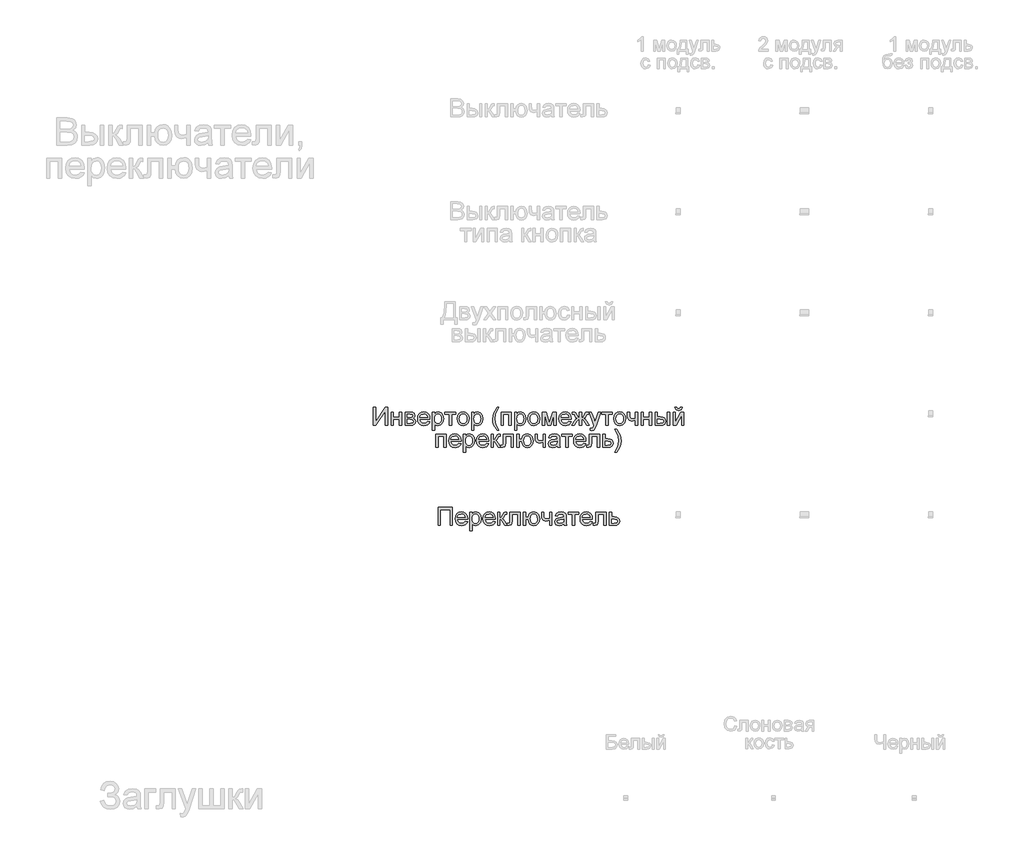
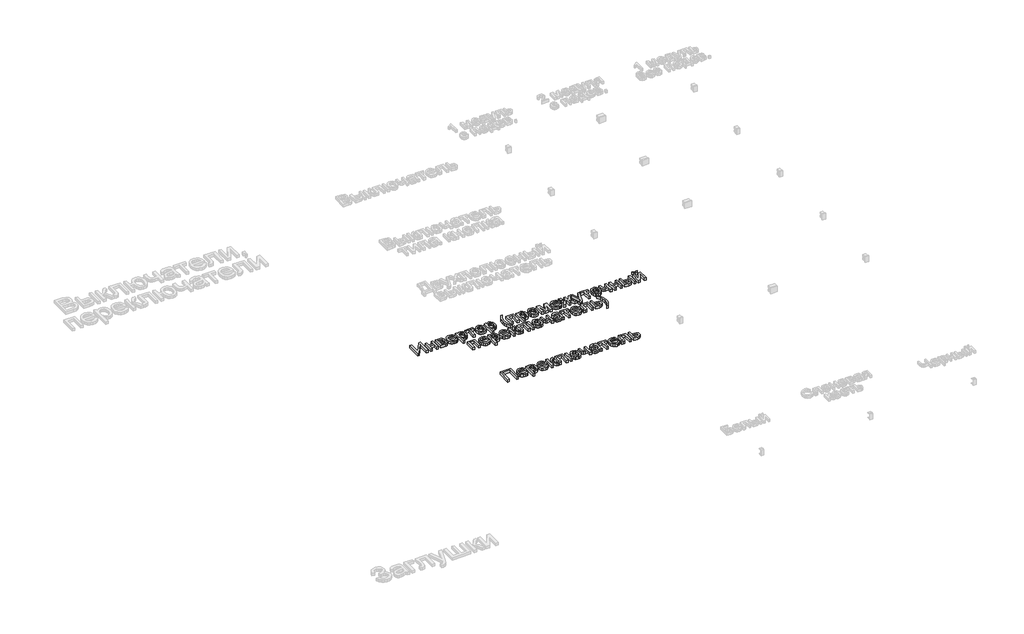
# One storey, part 3 of 47: 2 proxies.
"""IFC4 building model written with IfcOpenShell, lengths in millimetres."""

from ifc_helpers import new_model, si_unit, origin, origin_with_axes, place, context, project, spatial, polyline, outline, extrude, element, save

model = new_model("IFC4")

# Units and contexts
model_context = context("Model", 3, world=origin())
ifc_project = project(units=[si_unit("LENGTHUNIT", "METRE", prefix="MILLI")], contexts=[model_context])

# Site, building, storey
site = spatial("IfcSite", under=ifc_project)
building = spatial("IfcBuilding", under=site)
storey = spatial("IfcBuildingStorey", under=building, Name="Этаж 01", Elevation=0.0)

# Proxies
placement = place(None, origin())
element("IfcBuildingElementProxy", 1, Name="100 мм Arial", ObjectType="100 мм Arial", at=placement, inside=storey, context=model_context, shape_type="SweptSolid", body=[
    extrude(outline(polyline([(-1385.1267919, -30275.0185576), (-1372.5697531, -30275.0185576), (-1372.5697531, -30354.5791704), (-1319.9871533, -30275.0185576), (-1306.6452996, -30275.0185576), (-1306.6452996, -30375.4748677), (-1319.2023384, -30375.4748677), (-1319.2023384, -30296.1349841), (-1371.6623109, -30375.4748677), (-1385.1267919, -30375.4748677), (-1385.1267919, -30275.0185576)])), origin_with_axes(), (0.0, 0.0, 1.0), 20.0),
    extrude(outline(polyline([(-1286.2401116, -30301.702265), (-1273.6830728, -30301.702265), (-1273.6830728, -30329.9556022), (-1240.7208461, -30329.9556022), (-1240.7208461, -30301.702265), (-1228.1638073, -30301.702265), (-1228.1638073, -30375.4748677), (-1240.7208461, -30375.4748677), (-1240.7208461, -30342.512641), (-1273.6830728, -30342.512641), (-1273.6830728, -30375.4748677), (-1286.2401116, -30375.4748677), (-1286.2401116, -30301.702265)])), origin_with_axes(), (0.0, 0.0, 1.0), 20.0),
    extrude(outline(polyline([(-1209.3282491, -30301.702265), (-1181.6635231, -30301.702265), (-1166.4945222, -30303.3822594), (-1157.9596599, -30309.5381515), (-1154.3912045, -30320.268043), (-1156.5494456, -30328.9868463), (-1163.0486941, -30335.204052), (-1154.6119337, -30342.0098689), (-1151.2519448, -30353.8434064), (-1153.379529, -30363.4144696), (-1158.4379065, -30370.1528415), (-1166.4454712, -30374.1443612), (-1177.4206174, -30375.4748677), (-1209.3282491, -30375.4748677), (-1209.3282491, -30301.702265)]), holes=[polyline([(-1196.7712104, -30362.917829), (-1181.3692175, -30362.917829), (-1167.7085327, -30360.6492233), (-1163.8089836, -30352.8133368), (-1165.9549619, -30346.7678094), (-1171.5467682, -30343.2484049), (-1182.5954908, -30342.512641), (-1196.7712104, -30342.512641), (-1196.7712104, -30362.917829)]), polyline([(-1196.7712104, -30329.9556022), (-1184.3613244, -30329.9556022), (-1174.1219422, -30329.3179401), (-1169.1432725, -30326.7672916), (-1166.9482433, -30322.1565039), (-1170.7987415, -30316.0006118), (-1183.9689169, -30314.2593037), (-1196.7712104, -30314.2593037), (-1196.7712104, -30329.9556022)])]), origin_with_axes(), (0.0, 0.0, 1.0), 20.0),
    extrude(outline(polyline([(-1083.9050142, -30353.5000499), (-1071.5932301, -30355.0696797), (-1076.0292739, -30364.3464374), (-1083.1079366, -30371.281013), (-1092.6698028, -30375.6036264), (-1104.5554569, -30377.0444976), (-1119.2891308, -30374.5582284), (-1130.6260276, -30367.099421), (-1137.8549088, -30355.1524532), (-1140.2645359, -30339.201703), (-1137.8303834, -30322.7144582), (-1130.5279258, -30310.38428), (-1119.3443131, -30302.6955463), (-1105.2666954, -30300.1326351), (-1091.6274705, -30302.689415), (-1080.7289663, -30310.3597546), (-1073.5828586, -30322.6654073), (-1071.2008227, -30339.1281266), (-1071.2743991, -30342.512641), (-1127.7074971, -30342.512641), (-1125.5339277, -30351.9120259), (-1120.4847473, -30358.8220761), (-1113.1976181, -30363.0711131), (-1104.3102022, -30364.4874588), (-1091.9984181, -30361.8632339), (-1083.9050142, -30353.5000499)]), holes=[polyline([(-1127.7074971, -30329.9556022), (-1083.7578614, -30329.9556022), (-1088.785582, -30318.5757858), (-1096.1064337, -30314.1612019), (-1105.3157464, -30312.6896739), (-1120.7790529, -30317.3863007), (-1125.6442923, -30322.8769395), (-1127.7074971, -30329.9556022)])]), origin_with_axes(), (0.0, 0.0, 1.0), 20.0),
    extrude(outline(polyline([(-1058.6437839, -30403.7282049), (-1058.6437839, -30301.702265), (-1046.0867451, -30301.702265), (-1046.0867451, -30314.0140491), (-1037.4047301, -30303.6029886), (-1025.6815571, -30300.1326351), (-1009.7645295, -30304.9886774), (-999.3657317, -30318.6738877), (-995.8585901, -30338.0244806), (-999.8194529, -30358.3683549), (-1011.3218966, -30372.2252434), (-1027.2021361, -30377.0444976), (-1038.1282313, -30373.8193987), (-1046.0867451, -30365.6646812), (-1046.0867451, -30403.7282049), (-1058.6437839, -30403.7282049)]), holes=[polyline([(-1046.0867451, -30339.1771775), (-1044.7286474, -30350.4343666), (-1040.6543543, -30358.3070413), (-1034.6425494, -30362.9423544), (-1027.4719162, -30364.4874588), (-1020.184787, -30362.8871721), (-1014.0196979, -30358.0863121), (-1009.8166461, -30349.9254632), (-1008.4156288, -30338.2452098), (-1009.7829236, -30327.0493344), (-1013.8848078, -30319.0662951), (-1019.8874157, -30314.2838292), (-1026.9568814, -30312.6896739), (-1034.0539382, -30314.3849967), (-1040.2864723, -30319.4709653), (-1044.6366769, -30327.7881641), (-1046.0867451, -30339.1771775)])]), origin_with_axes(), (0.0, 0.0, 1.0), 20.0),
    extrude(outline(polyline([(-988.0104408, -30301.702265), (-928.3645067, -30301.702265), (-928.3645067, -30314.2593037), (-951.9089544, -30314.2593037), (-951.9089544, -30375.4748677), (-964.4659931, -30375.4748677), (-964.4659931, -30314.2593037), (-988.0104408, -30314.2593037), (-988.0104408, -30301.702265)])), origin_with_axes(), (0.0, 0.0, 1.0), 20.0),
    extrude(outline(polyline([(-920.5163575, -30338.5885663), (-917.8001621, -30320.8014719), (-909.6515759, -30308.2996154), (-899.5838719, -30302.1743802), (-887.5296052, -30300.1326351), (-874.33797, -30302.6189043), (-863.8012165, -30310.0777117), (-856.8942321, -30321.9204463), (-854.5919039, -30337.5584968), (-858.6631313, -30359.9011966), (-870.5211943, -30372.5440745), (-887.5296052, -30377.0444976), (-900.880656, -30374.5674255), (-911.4051467, -30367.1362092), (-918.2385548, -30355.0451543), (-920.5163575, -30338.5885663)]), holes=[polyline([(-907.9593187, -30338.5640409), (-906.5061848, -30349.9285288), (-902.1467832, -30358.0249984), (-895.5862209, -30362.8718437), (-887.5296052, -30364.4874588), (-879.5097777, -30362.8626467), (-872.9614782, -30357.9882102), (-868.6020766, -30349.7844417), (-867.1489427, -30338.1716334), (-868.6112736, -30327.1382392), (-872.9982664, -30319.1521343), (-879.555763, -30314.305289), (-887.5296052, -30312.6896739), (-895.5862209, -30314.2991576), (-902.1467832, -30319.1276088), (-906.5061848, -30327.2056843), (-907.9593187, -30338.5640409)])]), origin_with_axes(), (0.0, 0.0, 1.0), 20.0),
    extrude(outline(polyline([(-840.4652353, -30403.7282049), (-840.4652353, -30301.702265), (-827.9081965, -30301.702265), (-827.9081965, -30314.0140491), (-819.2261814, -30303.6029886), (-807.5030085, -30300.1326351), (-791.5859809, -30304.9886774), (-781.1871831, -30318.6738877), (-777.6800415, -30338.0244806), (-781.6409043, -30358.3683549), (-793.143348, -30372.2252434), (-809.0235874, -30377.0444976), (-819.9496827, -30373.8193987), (-827.9081965, -30365.6646812), (-827.9081965, -30403.7282049), (-840.4652353, -30403.7282049)]), holes=[polyline([(-827.9081965, -30339.1771775), (-826.5500988, -30350.4343666), (-822.4758057, -30358.3070413), (-816.4640008, -30362.9423544), (-809.2933676, -30364.4874588), (-802.0062384, -30362.8871721), (-795.8411493, -30358.0863121), (-791.6380975, -30349.9254632), (-790.2370802, -30338.2452098), (-791.604375, -30327.0493344), (-795.7062592, -30319.0662951), (-801.7088671, -30314.2838292), (-808.7783328, -30312.6896739), (-815.8753896, -30314.3849967), (-822.1079237, -30319.4709653), (-826.4581283, -30327.7881641), (-827.9081965, -30339.1771775)])]), origin_with_axes(), (0.0, 0.0, 1.0), 20.0),
    extrude(outline(polyline([(-699.1985492, -30403.7282049), (-717.0285632, -30374.2731199), (-722.4916108, -30357.0930307), (-724.3126267, -30339.2998049), (-718.8679732, -30308.7655993), (-699.1985492, -30275.0185576), (-689.7807701, -30275.0185576), (-701.5284685, -30294.9087108), (-708.5918028, -30314.1857273), (-711.7555879, -30339.3733813), (-706.2618835, -30371.5630558), (-689.7807701, -30403.7282049), (-699.1985492, -30403.7282049)])), origin_with_axes(), (0.0, 0.0, 1.0), 20.0),
    extrude(outline(polyline([(-677.2237313, -30301.702265), (-620.7170568, -30301.702265), (-620.7170568, -30375.4748677), (-633.2740956, -30375.4748677), (-633.2740956, -30314.2593037), (-664.6666925, -30314.2593037), (-664.6666925, -30375.4748677), (-677.2237313, -30375.4748677), (-677.2237313, -30301.702265)])), origin_with_axes(), (0.0, 0.0, 1.0), 20.0),
    extrude(outline(polyline([(-601.8814987, -30403.7282049), (-601.8814987, -30301.702265), (-589.3244599, -30301.702265), (-589.3244599, -30314.0140491), (-580.6424448, -30303.6029886), (-568.9192719, -30300.1326351), (-553.0022443, -30304.9886774), (-542.6034465, -30318.6738877), (-539.0963049, -30338.0244806), (-543.0571677, -30358.3683549), (-554.5596114, -30372.2252434), (-570.4398508, -30377.0444976), (-581.3659461, -30373.8193987), (-589.3244599, -30365.6646812), (-589.3244599, -30403.7282049), (-601.8814987, -30403.7282049)]), holes=[polyline([(-589.3244599, -30339.1771775), (-587.9663622, -30350.4343666), (-583.8920691, -30358.3070413), (-577.8802642, -30362.9423544), (-570.709631, -30364.4874588), (-563.4225018, -30362.8871721), (-557.2574127, -30358.0863121), (-553.0543609, -30349.9254632), (-551.6533436, -30338.2452098), (-553.0206384, -30327.0493344), (-557.1225226, -30319.0662951), (-563.1251305, -30314.2838292), (-570.1945962, -30312.6896739), (-577.291653, -30314.3849967), (-583.5241871, -30319.4709653), (-587.8743917, -30327.7881641), (-589.3244599, -30339.1771775)])]), origin_with_axes(), (0.0, 0.0, 1.0), 20.0),
    extrude(outline(polyline([(-528.1088959, -30338.5885663), (-525.3927005, -30320.8014719), (-517.2441143, -30308.2996154), (-507.1764104, -30302.1743802), (-495.1221437, -30300.1326351), (-481.9305085, -30302.6189043), (-471.393755, -30310.0777117), (-464.4867705, -30321.9204463), (-462.1844424, -30337.5584968), (-466.2556698, -30359.9011966), (-478.1137328, -30372.5440745), (-495.1221437, -30377.0444976), (-508.4731944, -30374.5674255), (-518.9976852, -30367.1362092), (-525.8310932, -30355.0451543), (-528.1088959, -30338.5885663)]), holes=[polyline([(-515.5518572, -30338.5640409), (-514.0987233, -30349.9285288), (-509.7393216, -30358.0249984), (-503.1787594, -30362.8718437), (-495.1221437, -30364.4874588), (-487.1023162, -30362.8626467), (-480.5540167, -30357.9882102), (-476.194615, -30349.7844417), (-474.7414812, -30338.1716334), (-476.2038121, -30327.1382392), (-480.5908049, -30319.1521343), (-487.1483014, -30314.305289), (-495.1221437, -30312.6896739), (-503.1787594, -30314.2991576), (-509.7393216, -30319.1276088), (-514.0987233, -30327.2056843), (-515.5518572, -30338.5640409)])]), origin_with_axes(), (0.0, 0.0, 1.0), 20.0),
    extrude(outline(polyline([(-448.0577738, -30301.702265), (-426.4508379, -30301.702265), (-409.7980463, -30360.7595879), (-391.8454049, -30301.702265), (-371.1459113, -30301.702265), (-371.1459113, -30375.4748677), (-383.7029501, -30375.4748677), (-383.7029501, -30316.0741882), (-401.7536933, -30375.4748677), (-418.2348067, -30375.4748677), (-435.500735, -30313.2292341), (-435.500735, -30375.4748677), (-448.0577738, -30375.4748677), (-448.0577738, -30301.702265)])), origin_with_axes(), (0.0, 0.0, 1.0), 20.0),
    extrude(outline(polyline([(-300.659721, -30353.5000499), (-288.3479369, -30355.0696797), (-292.7839807, -30364.3464374), (-299.8626434, -30371.281013), (-309.4245096, -30375.6036264), (-321.3101637, -30377.0444976), (-336.0438376, -30374.5582284), (-347.3807344, -30367.099421), (-354.6096156, -30355.1524532), (-357.0192427, -30339.201703), (-354.5850902, -30322.7144582), (-347.2826326, -30310.38428), (-336.0990199, -30302.6955463), (-322.0214022, -30300.1326351), (-308.3821773, -30302.689415), (-297.4836732, -30310.3597546), (-290.3375654, -30322.6654073), (-287.9555295, -30339.1281266), (-288.0291059, -30342.512641), (-344.4622039, -30342.512641), (-342.2886345, -30351.9120259), (-337.2394541, -30358.8220761), (-329.9523249, -30363.0711131), (-321.064909, -30364.4874588), (-308.7531249, -30361.8632339), (-300.659721, -30353.5000499)]), holes=[polyline([(-344.4622039, -30329.9556022), (-300.5125682, -30329.9556022), (-305.5402888, -30318.5757858), (-312.8611406, -30314.1612019), (-322.0704532, -30312.6896739), (-337.5337597, -30317.3863007), (-342.3989991, -30322.8769395), (-344.4622039, -30329.9556022)])]), origin_with_axes(), (0.0, 0.0, 1.0), 20.0),
    extrude(outline(polyline([(-181.2206999, -30403.7282049), (-182.7903298, -30391.63715), (-176.4137085, -30392.740796), (-170.4540202, -30391.3551072), (-166.7997257, -30387.4923462), (-163.3661604, -30378.2462454), (-162.3851418, -30375.2050876), (-189.0688492, -30301.702265), (-175.8250973, -30301.702265), (-161.6739033, -30342.6597937), (-156.7442845, -30359.0428053), (-151.8146658, -30344.5727801), (-137.2710643, -30301.702265), (-124.1254143, -30301.702265), (-149.8035776, -30377.2407013), (-156.4745044, -30393.6237128), (-163.7585679, -30402.4774062), (-173.544229, -30405.2978348), (-181.2206999, -30403.7282049)])), origin_with_axes(), (0.0, 0.0, 1.0), 20.0),
    extrude(outline(polyline([(-229.8792252, -30301.702265), (-229.8792252, -30333.0948619), (-222.5583735, -30330.5074252), (-215.6299292, -30317.0797324), (-207.3648471, -30304.2038625), (-195.6171487, -30301.702265), (-190.638479, -30301.702265), (-190.638479, -30314.3328801), (-194.0965698, -30314.2593037), (-200.5712929, -30315.5591534), (-205.0594532, -30323.7016083), (-210.2711148, -30332.628878), (-217.7145939, -30337.1660893), (-209.504694, -30342.0527885), (-201.5032606, -30352.347353), (-187.4992193, -30375.4748677), (-201.8956681, -30375.4748677), (-215.6789802, -30352.666184), (-222.7055263, -30343.1870913), (-229.8792252, -30340.9430111), (-229.8792252, -30375.4748677), (-242.4362639, -30375.4748677), (-242.4362639, -30340.9430111), (-249.5854374, -30343.1380403), (-256.6610344, -30352.6171331), (-270.4443465, -30375.4748677), (-284.8162698, -30375.4748677), (-270.8612794, -30352.347353), (-262.7985324, -30342.0527885), (-254.5518443, -30337.1660893), (-262.4490445, -30332.1628942), (-269.2180732, -30319.2870243), (-272.5290111, -30315.0441186), (-277.9491392, -30314.1857273), (-281.6770101, -30314.2593037), (-281.6770101, -30301.702265), (-279.7885492, -30301.702265), (-268.7766148, -30302.4870799), (-263.0621811, -30305.8225433), (-256.6610344, -30317.0797324), (-249.8061666, -30330.421586), (-242.4362639, -30333.0948619), (-242.4362639, -30301.702265), (-229.8792252, -30301.702265)])), origin_with_axes(), (0.0, 0.0, 1.0), 20.0),
    extrude(outline(polyline([(-120.0051359, -30301.702265), (-60.3592018, -30301.702265), (-60.3592018, -30314.2593037), (-83.9036495, -30314.2593037), (-83.9036495, -30375.4748677), (-96.4606883, -30375.4748677), (-96.4606883, -30314.2593037), (-120.0051359, -30314.2593037), (-120.0051359, -30301.702265)])), origin_with_axes(), (0.0, 0.0, 1.0), 20.0),
    extrude(outline(polyline([(-52.5110526, -30338.5885663), (-49.7948572, -30320.8014719), (-41.646271, -30308.2996154), (-31.578567, -30302.1743802), (-19.5243003, -30300.1326351), (-6.3326651, -30302.6189043), (4.2040884, -30310.0777117), (11.1110728, -30321.9204463), (13.413401, -30337.5584968), (9.3421736, -30359.9011966), (-2.5158894, -30372.5440745), (-19.5243003, -30377.0444976), (-32.8753511, -30374.5674255), (-43.3998418, -30367.1362092), (-50.2332499, -30355.0451543), (-52.5110526, -30338.5885663)]), holes=[polyline([(-39.9540138, -30338.5640409), (-38.5008799, -30349.9285288), (-34.1414783, -30358.0249984), (-27.580916, -30362.8718437), (-19.5243003, -30364.4874588), (-11.5044728, -30362.8626467), (-4.9561733, -30357.9882102), (-0.5967717, -30349.7844417), (0.8563622, -30338.1716334), (-0.6059687, -30327.1382392), (-4.9929615, -30319.1521343), (-11.5504581, -30314.305289), (-19.5243003, -30312.6896739), (-27.580916, -30314.2991576), (-34.1414783, -30319.1276088), (-38.5008799, -30327.2056843), (-39.9540138, -30338.5640409)])]), origin_with_axes(), (0.0, 0.0, 1.0), 20.0),
    extrude(outline(polyline([(22.83118, -30301.702265), (35.3882188, -30301.702265), (35.3882188, -30315.853459), (36.4060257, -30329.1217363), (41.2988562, -30336.307698), (51.0109409, -30339.3733813), (68.3504456, -30335.571934), (68.3504456, -30301.702265), (80.9074844, -30301.702265), (80.9074844, -30375.4748677), (68.3504456, -30375.4748677), (68.3504456, -30347.613938), (47.650952, -30351.93042), (33.4139188, -30347.429997), (25.038472, -30336.4057998), (22.83118, -30322.058402), (22.83118, -30301.702265)])), origin_with_axes(), (0.0, 0.0, 1.0), 20.0),
    extrude(outline(polyline([(99.7430425, -30301.702265), (112.3000813, -30301.702265), (112.3000813, -30329.9556022), (145.262308, -30329.9556022), (145.262308, -30301.702265), (157.8193468, -30301.702265), (157.8193468, -30375.4748677), (145.262308, -30375.4748677), (145.262308, -30342.512641), (112.3000813, -30342.512641), (112.3000813, -30375.4748677), (99.7430425, -30375.4748677), (99.7430425, -30301.702265)])), origin_with_axes(), (0.0, 0.0, 1.0), 20.0),
    extrude(outline(polyline([(245.7186182, -30301.702265), (258.275657, -30301.702265), (258.275657, -30375.4748677), (245.7186182, -30375.4748677), (245.7186182, -30301.702265)])), origin_with_axes(), (0.0, 0.0, 1.0), 20.0),
    extrude(outline(polyline([(176.654905, -30301.702265), (189.2119437, -30301.702265), (189.2119437, -30328.3859723), (204.7365639, -30328.3859723), (218.1550597, -30329.9586679), (228.0970706, -30334.6767545), (234.249897, -30342.1600874), (236.3008391, -30352.0285219), (234.5809908, -30361.0140396), (229.4214458, -30368.5954744), (220.484979, -30373.7550194), (207.4343652, -30375.4748677), (176.654905, -30375.4748677), (176.654905, -30301.702265)]), holes=[polyline([(189.2119437, -30362.917829), (202.112339, -30362.917829), (218.7651307, -30360.2813413), (223.7438003, -30352.0530474), (220.0527177, -30344.3275255), (203.7555453, -30340.9430111), (189.2119437, -30340.9430111), (189.2119437, -30362.917829)])]), origin_with_axes(), (0.0, 0.0, 1.0), 20.0),
    extrude(outline(polyline([(277.1112151, -30301.702265), (289.6682539, -30301.702265), (289.6682539, -30357.9636847), (320.5212905, -30301.702265), (336.7571493, -30301.702265), (336.7571493, -30375.4748677), (324.2001105, -30375.4748677), (324.2001105, -30319.5568045), (293.5432776, -30375.4748677), (277.1112151, -30375.4748677), (277.1112151, -30301.702265)])), origin_with_axes(), (0.0, 0.0, 1.0), 20.0),
    extrude(outline(polyline([(317.9215911, -30275.0185576), (327.3393702, -30275.0185576), (321.2447918, -30288.9858107), (307.7189971, -30293.8541157), (293.0772937, -30289.0225989), (286.5289942, -30275.0185576), (295.9467733, -30275.0185576), (299.4784404, -30282.0941546), (306.5908257, -30284.4363366), (314.389924, -30282.167731), (317.9215911, -30275.0185576)])), origin_with_axes(), (0.0, 0.0, 1.0), 20.0),
    extrude(outline(polyline([(-1038.2385959, -30423.6770828), (-981.7319214, -30423.6770828), (-981.7319214, -30497.4496856), (-994.2889602, -30497.4496856), (-994.2889602, -30436.2341216), (-1025.6815571, -30436.2341216), (-1025.6815571, -30497.4496856), (-1038.2385959, -30497.4496856), (-1038.2385959, -30423.6770828)])), origin_with_axes(), (0.0, 0.0, 1.0), 20.0),
    extrude(outline(polyline([(-911.2457312, -30475.4748677), (-898.9339471, -30477.0444976), (-903.3699908, -30486.3212552), (-910.4486535, -30493.2558308), (-920.0105197, -30497.5784443), (-931.8961738, -30499.0193154), (-946.6298477, -30496.5330463), (-957.9667446, -30489.0742388), (-965.1956258, -30477.127271), (-967.6052528, -30461.1765208), (-965.1711003, -30444.6892761), (-957.8686427, -30432.3590979), (-946.68503, -30424.6703642), (-932.6074124, -30422.107453), (-918.9681874, -30424.6642328), (-908.0696833, -30432.3345724), (-900.9235755, -30444.6402252), (-898.5415396, -30461.1029444), (-898.615116, -30464.4874588), (-955.0482141, -30464.4874588), (-952.8746446, -30473.8868438), (-947.8254642, -30480.7968939), (-940.538335, -30485.045931), (-931.6509192, -30486.4622766), (-919.3391351, -30483.8380517), (-911.2457312, -30475.4748677)]), holes=[polyline([(-955.0482141, -30451.93042), (-911.0985784, -30451.93042), (-916.126299, -30440.5506036), (-923.4471507, -30436.1360197), (-932.6564633, -30434.6644917), (-948.1197698, -30439.3611185), (-952.9850092, -30444.8517573), (-955.0482141, -30451.93042)])]), origin_with_axes(), (0.0, 0.0, 1.0), 20.0),
    extrude(outline(polyline([(-885.9845008, -30525.7030228), (-885.9845008, -30423.6770828), (-873.4274621, -30423.6770828), (-873.4274621, -30435.9888669), (-864.745447, -30425.5778064), (-853.0222741, -30422.107453), (-837.1052464, -30426.9634953), (-826.7064487, -30440.6487055), (-823.199307, -30459.9992985), (-827.1601698, -30480.3431728), (-838.6626135, -30494.2000613), (-854.542853, -30499.0193154), (-865.4689482, -30495.7942166), (-873.4274621, -30487.639499), (-873.4274621, -30525.7030228), (-885.9845008, -30525.7030228)]), holes=[polyline([(-873.4274621, -30461.1519954), (-872.0693644, -30472.4091844), (-867.9950713, -30480.2818591), (-861.9832663, -30484.9171723), (-854.8126331, -30486.4622766), (-847.5255039, -30484.86199), (-841.3604148, -30480.0611299), (-837.157363, -30471.900281), (-835.7563458, -30460.2200277), (-837.1236405, -30449.0241523), (-841.2255248, -30441.041113), (-847.2281326, -30436.258647), (-854.2975983, -30434.6644917), (-861.3946551, -30436.3598146), (-867.6271893, -30441.4457832), (-871.9773939, -30449.7629819), (-873.4274621, -30461.1519954)])]), origin_with_axes(), (0.0, 0.0, 1.0), 20.0),
    extrude(outline(polyline([(-757.4220063, -30475.4748677), (-745.1102221, -30477.0444976), (-749.5462659, -30486.3212552), (-756.6249286, -30493.2558308), (-766.1867948, -30497.5784443), (-778.0724489, -30499.0193154), (-792.8061228, -30496.5330463), (-804.1430196, -30489.0742388), (-811.3719008, -30477.127271), (-813.7815279, -30461.1765208), (-811.3473754, -30444.6892761), (-804.0449178, -30432.3590979), (-792.8613051, -30424.6703642), (-778.7836874, -30422.107453), (-765.1444625, -30424.6642328), (-754.2459584, -30432.3345724), (-747.0998506, -30444.6402252), (-744.7178147, -30461.1029444), (-744.7913911, -30464.4874588), (-801.2244891, -30464.4874588), (-799.0509197, -30473.8868438), (-794.0017393, -30480.7968939), (-786.7146101, -30485.045931), (-777.8271943, -30486.4622766), (-765.5154101, -30483.8380517), (-757.4220063, -30475.4748677)]), holes=[polyline([(-801.2244891, -30451.93042), (-757.2748535, -30451.93042), (-762.3025741, -30440.5506036), (-769.6234258, -30436.1360197), (-778.8327384, -30434.6644917), (-794.2960449, -30439.3611185), (-799.1612843, -30444.8517573), (-801.2244891, -30451.93042)])]), origin_with_axes(), (0.0, 0.0, 1.0), 20.0),
    extrude(outline(polyline([(-664.6666925, -30423.6770828), (-608.1600181, -30423.6770828), (-608.1600181, -30497.3761092), (-620.7170568, -30497.3761092), (-620.7170568, -30436.2341216), (-652.1096538, -30436.2341216), (-652.1096538, -30471.4281658), (-652.9557824, -30487.6640245), (-657.6033582, -30494.5188923), (-668.5907672, -30497.4496856), (-678.7933612, -30496.8120234), (-678.7933612, -30484.8926468), (-673.1770294, -30484.8926468), (-667.4993839, -30484.1200946), (-665.2307783, -30481.667548), (-664.6666925, -30470.7169272), (-664.6666925, -30423.6770828)])), origin_with_axes(), (0.0, 0.0, 1.0), 20.0),
    extrude(outline(polyline([(-732.1607759, -30423.6770828), (-719.6037372, -30423.6770828), (-719.6037372, -30455.0696797), (-711.1915022, -30452.8133368), (-704.2998462, -30439.6676869), (-698.5731498, -30428.3246587), (-693.5209037, -30424.633576), (-684.3361165, -30423.6770828), (-681.9326208, -30423.6770828), (-681.9326208, -30436.307698), (-685.3171352, -30436.2341216), (-691.4485018, -30437.5584968), (-695.7649839, -30445.8235789), (-700.8294927, -30454.7631114), (-707.9296152, -30459.1409071), (-700.0078895, -30464.0276063), (-692.2333167, -30474.3221708), (-678.7933612, -30497.4496856), (-693.0671826, -30497.4496856), (-706.237358, -30474.8126801), (-712.8592339, -30465.2354855), (-719.6037372, -30462.917829), (-719.6037372, -30497.4496856), (-732.1607759, -30497.4496856), (-732.1607759, -30423.6770828)])), origin_with_axes(), (0.0, 0.0, 1.0), 20.0),
    extrude(outline(polyline([(-589.3244599, -30423.6770828), (-576.7674212, -30423.6770828), (-576.7674212, -30451.93042), (-562.6407525, -30451.93042), (-559.3819312, -30439.1281266), (-552.8918797, -30429.7593985), (-543.5813995, -30424.0204393), (-531.8612923, -30422.107453), (-514.4849994, -30426.607876), (-503.9880998, -30439.0054993), (-499.8555587, -30460.2936041), (-501.99234, -30477.0444976), (-508.4026837, -30489.1846034), (-518.4734533, -30496.5606374), (-531.5915121, -30499.0193154), (-543.8511796, -30496.7139216), (-553.4069145, -30489.7977401), (-559.8172582, -30478.8593821), (-562.6407525, -30464.4874588), (-576.7674212, -30464.4874588), (-576.7674212, -30497.4496856), (-589.3244599, -30497.4496856), (-589.3244599, -30423.6770828)]), holes=[polyline([(-531.0519519, -30434.6644917), (-539.056451, -30436.2893039), (-545.0682559, -30441.1637403), (-550.0837138, -30459.3861618), (-548.8206523, -30471.523202), (-545.0314677, -30479.9262399), (-539.1269617, -30484.8282674), (-531.5179358, -30486.4622766), (-523.88745, -30484.9508948), (-517.7714119, -30480.4167492), (-513.7523011, -30472.5164833), (-512.4125975, -30460.9067407), (-517.0479106, -30441.225054), (-522.8665775, -30436.3046323), (-531.0519519, -30434.6644917)])]), origin_with_axes(), (0.0, 0.0, 1.0), 20.0),
    extrude(outline(polyline([(-488.8681498, -30423.6770828), (-476.311111, -30423.6770828), (-476.311111, -30437.8282769), (-475.2933042, -30451.0965542), (-470.4004736, -30458.2825158), (-460.6883889, -30461.3481991), (-443.3488842, -30457.5467518), (-443.3488842, -30423.6770828), (-430.7918455, -30423.6770828), (-430.7918455, -30497.4496856), (-443.3488842, -30497.4496856), (-443.3488842, -30469.5887558), (-464.0483778, -30473.9052379), (-478.285411, -30469.4048148), (-486.6608578, -30458.3806177), (-488.8681498, -30444.0332199), (-488.8681498, -30423.6770828)])), origin_with_axes(), (0.0, 0.0, 1.0), 20.0),
    extrude(outline(polyline([(-364.8673919, -30488.0319065), (-377.044286, -30496.5422433), (-390.4965043, -30499.0193154), (-400.9903382, -30497.5293933), (-408.7311885, -30493.0596271), (-413.5044574, -30486.2722043), (-415.095547, -30477.8293125), (-412.6920513, -30467.8964986), (-406.3767437, -30460.6860115), (-397.584364, -30456.5657332), (-386.7195824, -30454.6772723), (-364.9409683, -30450.3607902), (-364.8673919, -30447.564887), (-368.3254827, -30438.2942607), (-382.2068966, -30434.6644917), (-394.9110882, -30437.0802502), (-400.9688784, -30445.6519006), (-413.5259172, -30444.0822708), (-408.0935264, -30431.8195376), (-397.1551684, -30424.633576), (-380.5882159, -30422.107453), (-365.370164, -30424.3392704), (-356.773988, -30429.9433395), (-352.9234898, -30438.465939), (-352.3103532, -30449.4533479), (-352.3103532, -30465.07607), (-351.672691, -30486.8914723), (-349.1710935, -30497.4496856), (-361.7281322, -30497.4496856), (-364.8673919, -30488.0319065)]), holes=[polyline([(-364.8673919, -30462.917829), (-385.1254271, -30466.7683272), (-395.9288951, -30468.8039409), (-400.8217256, -30472.1148788), (-402.5385082, -30476.9463957), (-398.7983746, -30483.7399499), (-387.8232284, -30486.4622766), (-375.1190369, -30483.457907), (-366.9275311, -30476.1861062), (-364.9409683, -30466.4740216), (-364.8673919, -30462.917829)])]), origin_with_axes(), (0.0, 0.0, 1.0), 20.0),
    extrude(outline(polyline([(-341.3229442, -30423.6770828), (-281.6770101, -30423.6770828), (-281.6770101, -30436.2341216), (-305.2214578, -30436.2341216), (-305.2214578, -30497.4496856), (-317.7784966, -30497.4496856), (-317.7784966, -30436.2341216), (-341.3229442, -30436.2341216), (-341.3229442, -30423.6770828)])), origin_with_axes(), (0.0, 0.0, 1.0), 20.0),
    extrude(outline(polyline([(-219.038969, -30475.4748677), (-206.7271849, -30477.0444976), (-211.1632287, -30486.3212552), (-218.2418914, -30493.2558308), (-227.8037576, -30497.5784443), (-239.6894117, -30499.0193154), (-254.4230856, -30496.5330463), (-265.7599824, -30489.0742388), (-272.9888636, -30477.127271), (-275.3984907, -30461.1765208), (-272.9643382, -30444.6892761), (-265.6618806, -30432.3590979), (-254.4782679, -30424.6703642), (-240.4006502, -30422.107453), (-226.7614253, -30424.6642328), (-215.8629212, -30432.3345724), (-208.7168134, -30444.6402252), (-206.3347775, -30461.1029444), (-206.4083539, -30464.4874588), (-262.8414519, -30464.4874588), (-260.6678825, -30473.8868438), (-255.6187021, -30480.7968939), (-248.3315729, -30485.045931), (-239.444157, -30486.4622766), (-227.1323729, -30483.8380517), (-219.038969, -30475.4748677)]), holes=[polyline([(-262.8414519, -30451.93042), (-218.8918162, -30451.93042), (-223.9195368, -30440.5506036), (-231.2403886, -30436.1360197), (-240.4497012, -30434.6644917), (-255.9130077, -30439.3611185), (-260.7782471, -30444.8517573), (-262.8414519, -30451.93042)])]), origin_with_axes(), (0.0, 0.0, 1.0), 20.0),
    extrude(outline(polyline([(-187.4992193, -30423.6770828), (-130.9925449, -30423.6770828), (-130.9925449, -30497.3761092), (-143.5495836, -30497.3761092), (-143.5495836, -30436.2341216), (-174.9421806, -30436.2341216), (-174.9421806, -30471.4281658), (-175.7883091, -30487.6640245), (-180.435885, -30494.5188923), (-191.4232939, -30497.4496856), (-201.6258879, -30496.8120234), (-201.6258879, -30484.8926468), (-196.0095561, -30484.8926468), (-190.3319107, -30484.1200946), (-188.0633051, -30481.667548), (-187.4992193, -30470.7169272), (-187.4992193, -30423.6770828)])), origin_with_axes(), (0.0, 0.0, 1.0), 20.0),
    extrude(outline(polyline([(-112.1569867, -30423.6770828), (-99.5999479, -30423.6770828), (-99.5999479, -30450.3607902), (-85.1299228, -30450.3607902), (-72.5851468, -30451.9334857), (-63.3022578, -30456.6515723), (-57.5632986, -30464.1349052), (-55.6503123, -30474.0033397), (-57.2781901, -30482.9888575), (-62.1618236, -30490.5702923), (-70.6261751, -30495.7298372), (-82.9962072, -30497.4496856), (-112.1569867, -30497.4496856), (-112.1569867, -30423.6770828)]), holes=[polyline([(-99.5999479, -30484.8926468), (-87.876775, -30484.8926468), (-72.7322996, -30482.2561592), (-68.207351, -30474.0278652), (-71.5550772, -30466.3023433), (-86.3807216, -30462.917829), (-99.5999479, -30462.917829), (-99.5999479, -30484.8926468)])]), origin_with_axes(), (0.0, 0.0, 1.0), 20.0),
    extrude(outline(polyline([(-36.8147541, -30525.7030228), (-46.2325332, -30525.7030228), (-29.7514198, -30493.5378737), (-24.2577153, -30461.3481991), (-27.4215005, -30436.3812744), (-34.4112584, -30417.0797324), (-46.2325332, -30396.9933754), (-36.8147541, -30396.9933754), (-17.1453301, -30430.7404171), (-11.7006766, -30461.2746227), (-13.5308895, -30479.0678485), (-19.0215283, -30496.2479377), (-36.8147541, -30525.7030228)])), origin_with_axes(), (0.0, 0.0, 1.0), 20.0),
])
element("IfcBuildingElementProxy", 2, Name="100 мм Arial", ObjectType="100 мм Arial", at=placement, inside=storey, context=model_context, shape_type="SweptSolid", body=[
    extrude(outline(polyline([(-1025.6815571, -30830.0185576), (-947.2000648, -30830.0185576), (-947.2000648, -30930.4748677), (-959.7571036, -30930.4748677), (-959.7571036, -30842.5755963), (-1013.1245184, -30842.5755963), (-1013.1245184, -30930.4748677), (-1025.6815571, -30930.4748677), (-1025.6815571, -30830.0185576)])), origin_with_axes(), (0.0, 0.0, 1.0), 20.0),
    extrude(outline(polyline([(-875.1442447, -30908.5000499), (-862.8324606, -30910.0696797), (-867.2685043, -30919.3464374), (-874.3471671, -30926.281013), (-883.9090332, -30930.6036264), (-895.7946874, -30932.0444976), (-910.5283613, -30929.5582284), (-921.8652581, -30922.099421), (-929.0941393, -30910.1524532), (-931.5037664, -30894.201703), (-929.0696138, -30877.7144582), (-921.7671562, -30865.38428), (-910.5835436, -30857.6955463), (-896.5059259, -30855.1326351), (-882.8667009, -30857.689415), (-871.9681968, -30865.3597546), (-864.8220891, -30877.6654073), (-862.4400531, -30894.1281266), (-862.5136295, -30897.512641), (-918.9467276, -30897.512641), (-916.7731581, -30906.9120259), (-911.7239778, -30913.8220761), (-904.4368486, -30918.0711131), (-895.5494327, -30919.4874588), (-883.2376486, -30916.8632339), (-875.1442447, -30908.5000499)]), holes=[polyline([(-918.9467276, -30884.9556022), (-874.9970919, -30884.9556022), (-880.0248125, -30873.5757858), (-887.3456642, -30869.1612019), (-896.5549768, -30867.6896739), (-912.0182834, -30872.3863007), (-916.8835227, -30877.8769395), (-918.9467276, -30884.9556022)])]), origin_with_axes(), (0.0, 0.0, 1.0), 20.0),
    extrude(outline(polyline([(-849.8830144, -30958.7282049), (-849.8830144, -30856.702265), (-837.3259756, -30856.702265), (-837.3259756, -30869.0140491), (-828.6439605, -30858.6029886), (-816.9207876, -30855.1326351), (-801.00376, -30859.9886774), (-790.6049622, -30873.6738877), (-787.0978205, -30893.0244806), (-791.0586833, -30913.3683549), (-802.5611271, -30927.2252434), (-818.4413665, -30932.0444976), (-829.3674618, -30928.8193987), (-837.3259756, -30920.6646812), (-837.3259756, -30958.7282049), (-849.8830144, -30958.7282049)]), holes=[polyline([(-837.3259756, -30894.1771775), (-835.9678779, -30905.4343666), (-831.8935848, -30913.3070413), (-825.8817799, -30917.9423544), (-818.7111467, -30919.4874588), (-811.4240175, -30917.8871721), (-805.2589284, -30913.0863121), (-801.0558766, -30904.9254632), (-799.6548593, -30893.2452098), (-801.0221541, -30882.0493344), (-805.1240383, -30874.0662951), (-811.1266462, -30869.2838292), (-818.1961119, -30867.6896739), (-825.2931687, -30869.3849967), (-831.5257028, -30874.4709653), (-835.8759074, -30882.7881641), (-837.3259756, -30894.1771775)])]), origin_with_axes(), (0.0, 0.0, 1.0), 20.0),
    extrude(outline(polyline([(-721.3205198, -30908.5000499), (-709.0087357, -30910.0696797), (-713.4447794, -30919.3464374), (-720.5234421, -30926.281013), (-730.0853083, -30930.6036264), (-741.9709625, -30932.0444976), (-756.7046364, -30929.5582284), (-768.0415332, -30922.099421), (-775.2704144, -30910.1524532), (-777.6800415, -30894.201703), (-775.2458889, -30877.7144582), (-767.9434313, -30865.38428), (-756.7598187, -30857.6955463), (-742.682201, -30855.1326351), (-729.042976, -30857.689415), (-718.1444719, -30865.3597546), (-710.9983641, -30877.6654073), (-708.6163282, -30894.1281266), (-708.6899046, -30897.512641), (-765.1230027, -30897.512641), (-762.9494332, -30906.9120259), (-757.9002528, -30913.8220761), (-750.6131237, -30918.0711131), (-741.7257078, -30919.4874588), (-729.4139237, -30916.8632339), (-721.3205198, -30908.5000499)]), holes=[polyline([(-765.1230027, -30884.9556022), (-721.173367, -30884.9556022), (-726.2010876, -30873.5757858), (-733.5219393, -30869.1612019), (-742.7312519, -30867.6896739), (-758.1945584, -30872.3863007), (-763.0597978, -30877.8769395), (-765.1230027, -30884.9556022)])]), origin_with_axes(), (0.0, 0.0, 1.0), 20.0),
    extrude(outline(polyline([(-628.5652061, -30856.702265), (-572.0585316, -30856.702265), (-572.0585316, -30930.4012913), (-584.6155704, -30930.4012913), (-584.6155704, -30869.2593037), (-616.0081673, -30869.2593037), (-616.0081673, -30904.4533479), (-616.8542959, -30920.6892066), (-621.5018718, -30927.5440745), (-632.4892807, -30930.4748677), (-642.6918747, -30929.8372056), (-642.6918747, -30917.917829), (-637.0755429, -30917.917829), (-631.3978974, -30917.1452768), (-629.1292918, -30914.6927301), (-628.5652061, -30903.7421094), (-628.5652061, -30856.702265)])), origin_with_axes(), (0.0, 0.0, 1.0), 20.0),
    extrude(outline(polyline([(-696.0592895, -30856.702265), (-683.5022507, -30856.702265), (-683.5022507, -30888.0948619), (-675.0900157, -30885.838519), (-668.1983597, -30872.692869), (-662.4716633, -30861.3498408), (-657.4194172, -30857.6587581), (-648.2346301, -30856.702265), (-645.8311344, -30856.702265), (-645.8311344, -30869.3328801), (-649.2156487, -30869.2593037), (-655.3470153, -30870.5836789), (-659.6634974, -30878.8487611), (-664.7280062, -30887.7882935), (-671.8281287, -30892.1660893), (-663.9064031, -30897.0527885), (-656.1318302, -30907.347353), (-642.6918747, -30930.4748677), (-656.9656961, -30930.4748677), (-670.1358715, -30907.8378623), (-676.7577474, -30898.2606677), (-683.5022507, -30895.9430111), (-683.5022507, -30930.4748677), (-696.0592895, -30930.4748677), (-696.0592895, -30856.702265)])), origin_with_axes(), (0.0, 0.0, 1.0), 20.0),
    extrude(outline(polyline([(-553.2229735, -30856.702265), (-540.6659347, -30856.702265), (-540.6659347, -30884.9556022), (-526.5392661, -30884.9556022), (-523.2804447, -30872.1533088), (-516.7903932, -30862.7845806), (-507.479913, -30857.0456215), (-495.7598058, -30855.1326351), (-478.3835129, -30859.6330582), (-467.8866133, -30872.0306814), (-463.7540722, -30893.3187862), (-465.8908535, -30910.0696797), (-472.3011973, -30922.2097856), (-482.3719669, -30929.5858196), (-495.4900257, -30932.0444976), (-507.7496932, -30929.7391037), (-517.305428, -30922.8229222), (-523.7157718, -30911.8845642), (-526.5392661, -30897.512641), (-540.6659347, -30897.512641), (-540.6659347, -30930.4748677), (-553.2229735, -30930.4748677), (-553.2229735, -30856.702265)]), holes=[polyline([(-494.9504654, -30867.6896739), (-502.9549645, -30869.314486), (-508.9667694, -30874.1889225), (-513.9822273, -30892.411344), (-512.7191658, -30904.5483841), (-508.9299812, -30912.951422), (-503.0254752, -30917.8534496), (-495.4164493, -30919.4874588), (-487.7859636, -30917.9760769), (-481.6699254, -30913.4419313), (-477.6508146, -30905.5416655), (-476.311111, -30893.9319229), (-480.9464241, -30874.2502361), (-486.765091, -30869.3298144), (-494.9504654, -30867.6896739)])]), origin_with_axes(), (0.0, 0.0, 1.0), 20.0),
    extrude(outline(polyline([(-452.7666633, -30856.702265), (-440.2096245, -30856.702265), (-440.2096245, -30870.853459), (-439.1918177, -30884.1217363), (-434.2989872, -30891.307698), (-424.5869025, -30894.3733813), (-407.2473978, -30890.571934), (-407.2473978, -30856.702265), (-394.690359, -30856.702265), (-394.690359, -30930.4748677), (-407.2473978, -30930.4748677), (-407.2473978, -30902.613938), (-427.9468914, -30906.93042), (-442.1839246, -30902.429997), (-450.5593713, -30891.4057998), (-452.7666633, -30877.058402), (-452.7666633, -30856.702265)])), origin_with_axes(), (0.0, 0.0, 1.0), 20.0),
    extrude(outline(polyline([(-328.7659055, -30921.0570886), (-340.9427995, -30929.5674255), (-354.3950178, -30932.0444976), (-364.8888517, -30930.5545755), (-372.629702, -30926.0848092), (-377.4029709, -30919.2973864), (-378.9940605, -30910.8544946), (-376.5905648, -30900.9216808), (-370.2752573, -30893.7111937), (-361.4828776, -30889.5909153), (-350.618096, -30887.7024544), (-328.8394819, -30883.3859723), (-328.7659055, -30880.5900692), (-332.2239962, -30871.3194429), (-346.1054102, -30867.6896739), (-358.8096017, -30870.1054323), (-364.8673919, -30878.6770828), (-377.4244307, -30877.107453), (-371.9920399, -30864.8447198), (-361.0536819, -30857.6587581), (-344.4867294, -30855.1326351), (-329.2686775, -30857.3644525), (-320.6725016, -30862.9685216), (-316.8220034, -30871.4911212), (-316.2088667, -30882.4785301), (-316.2088667, -30898.1012521), (-315.5712046, -30919.9166545), (-313.069607, -30930.4748677), (-325.6266458, -30930.4748677), (-328.7659055, -30921.0570886)]), holes=[polyline([(-328.7659055, -30895.9430111), (-349.0239407, -30899.7935093), (-359.8274086, -30901.829123), (-364.7202391, -30905.140061), (-366.4370218, -30909.9715779), (-362.6968882, -30916.765132), (-351.721742, -30919.4874588), (-339.0175504, -30916.4830892), (-330.8260446, -30909.2112884), (-328.8394819, -30899.4992037), (-328.7659055, -30895.9430111)])]), origin_with_axes(), (0.0, 0.0, 1.0), 20.0),
    extrude(outline(polyline([(-305.2214578, -30856.702265), (-245.5755236, -30856.702265), (-245.5755236, -30869.2593037), (-269.1199713, -30869.2593037), (-269.1199713, -30930.4748677), (-281.6770101, -30930.4748677), (-281.6770101, -30869.2593037), (-305.2214578, -30869.2593037), (-305.2214578, -30856.702265)])), origin_with_axes(), (0.0, 0.0, 1.0), 20.0),
    extrude(outline(polyline([(-182.9374826, -30908.5000499), (-170.6256985, -30910.0696797), (-175.0617422, -30919.3464374), (-182.1404049, -30926.281013), (-191.7022711, -30930.6036264), (-203.5879252, -30932.0444976), (-218.3215992, -30929.5582284), (-229.658496, -30922.099421), (-236.8873772, -30910.1524532), (-239.2970042, -30894.201703), (-236.8628517, -30877.7144582), (-229.5603941, -30865.38428), (-218.3767815, -30857.6955463), (-204.2991638, -30855.1326351), (-190.6599388, -30857.689415), (-179.7614347, -30865.3597546), (-172.6153269, -30877.6654073), (-170.233291, -30894.1281266), (-170.3068674, -30897.512641), (-226.7399655, -30897.512641), (-224.566396, -30906.9120259), (-219.5172156, -30913.8220761), (-212.2300865, -30918.0711131), (-203.3426706, -30919.4874588), (-191.0308865, -30916.8632339), (-182.9374826, -30908.5000499)]), holes=[polyline([(-226.7399655, -30884.9556022), (-182.7903298, -30884.9556022), (-187.8180504, -30873.5757858), (-195.1389021, -30869.1612019), (-204.3482147, -30867.6896739), (-219.8115212, -30872.3863007), (-224.6767606, -30877.8769395), (-226.7399655, -30884.9556022)])]), origin_with_axes(), (0.0, 0.0, 1.0), 20.0),
    extrude(outline(polyline([(-151.3977329, -30856.702265), (-94.8910584, -30856.702265), (-94.8910584, -30930.4012913), (-107.4480972, -30930.4012913), (-107.4480972, -30869.2593037), (-138.8406941, -30869.2593037), (-138.8406941, -30904.4533479), (-139.6868227, -30920.6892066), (-144.3343986, -30927.5440745), (-155.3218075, -30930.4748677), (-165.5244015, -30929.8372056), (-165.5244015, -30917.917829), (-159.9080697, -30917.917829), (-154.2304242, -30917.1452768), (-151.9618186, -30914.6927301), (-151.3977329, -30903.7421094), (-151.3977329, -30856.702265)])), origin_with_axes(), (0.0, 0.0, 1.0), 20.0),
    extrude(outline(polyline([(-76.0555003, -30856.702265), (-63.4984615, -30856.702265), (-63.4984615, -30883.3859723), (-49.0284363, -30883.3859723), (-36.4836603, -30884.9586679), (-27.2007713, -30889.6767545), (-21.4618122, -30897.1600874), (-19.5488258, -30907.0285219), (-21.1767036, -30916.0140396), (-26.0603371, -30923.5954744), (-34.5246887, -30928.7550194), (-46.8947208, -30930.4748677), (-76.0555003, -30930.4748677), (-76.0555003, -30856.702265)]), holes=[polyline([(-63.4984615, -30917.917829), (-51.7752886, -30917.917829), (-36.6308131, -30915.2813413), (-32.1058646, -30907.0530474), (-35.4535907, -30899.3275255), (-50.2792351, -30895.9430111), (-63.4984615, -30895.9430111), (-63.4984615, -30917.917829)])]), origin_with_axes(), (0.0, 0.0, 1.0), 20.0),
])

save(model, "model.ifc")
